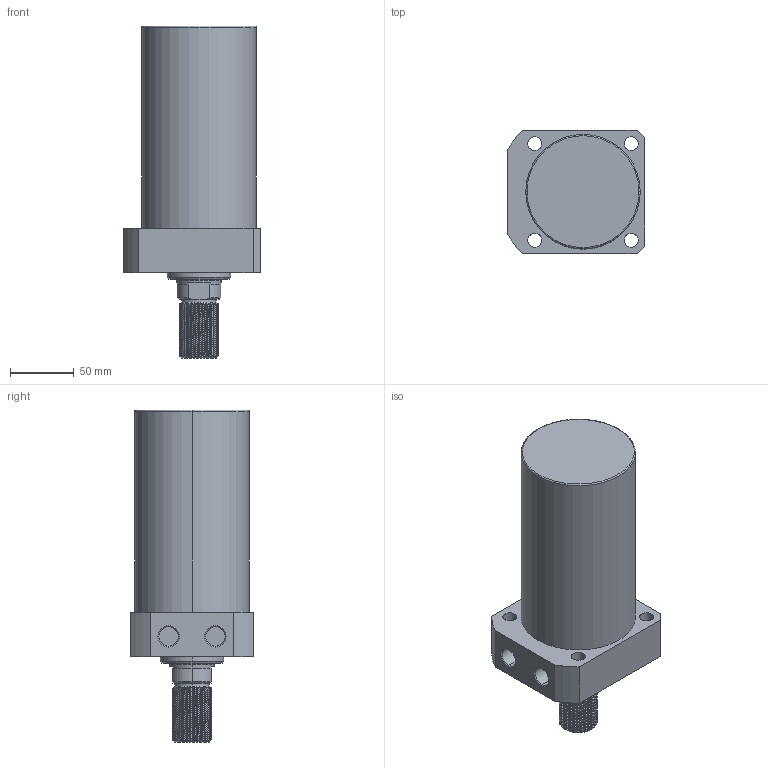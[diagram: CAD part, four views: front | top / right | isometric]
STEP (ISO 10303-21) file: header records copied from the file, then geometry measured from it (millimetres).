
FILE_DESCRIPTION (( 'STEP AP214' ), '1' );
FILE_NAME ('CLLR-090CT-115.STEP', '2020-01-10T02:39:53', ( 'Windows' ), ( 'Microsoft' ), 'SwSTEP 2.0', 'SolidWorks 2015', '' );
FILE_SCHEMA (( 'AUTOMOTIVE_DESIGN' ));
Length unit declared in the file: millimetre
Products named in the file (1): CLLR-090CT-115
Bounding box: 108 x 97 x 261 mm (x, y, z)
Volume: 1405646.8 mm3; surface area: 93577.7 mm2
Topology: 1 solids, 1 shells, 126 faces, 333 edges, 217 vertices
Faces by surface type: cylinder 85, plane 20, cone 17, torus 2, bspline 2
Entity records: 7018 total; most frequent: CARTESIAN_POINT 4100, ORIENTED_EDGE 666, DIRECTION 535, EDGE_CURVE 333, VERTEX_POINT 217, AXIS2_PLACEMENT_3D 206, EDGE_LOOP 142, ADVANCED_FACE 126
